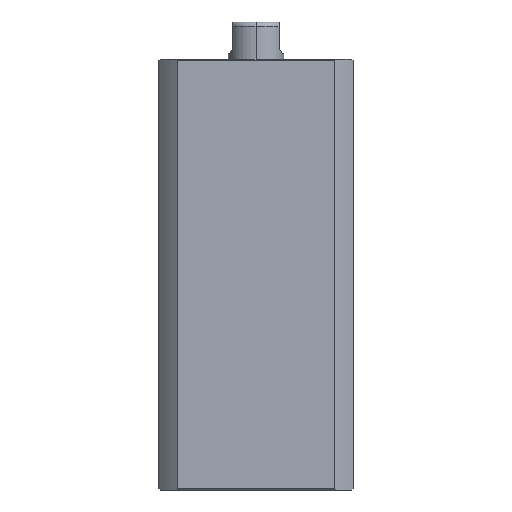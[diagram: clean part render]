
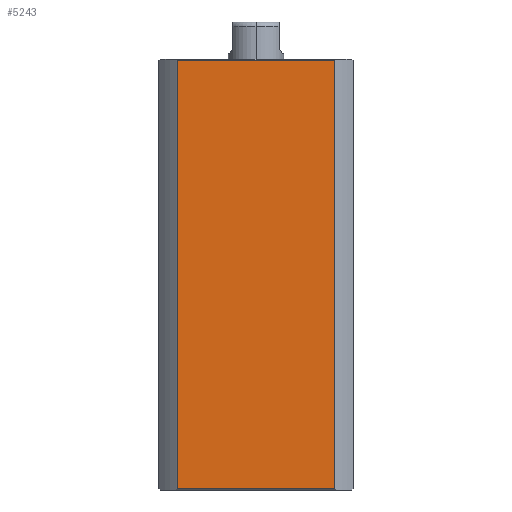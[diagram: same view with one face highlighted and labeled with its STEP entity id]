
A CAD part, left-side view. The second image highlights one B-rep face of the part: STEP entity #5243.
In plain terms, the highlighted planar face has unit normal (-1, 0, 0).
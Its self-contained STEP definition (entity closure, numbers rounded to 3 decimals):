
#770 = LINE ( 'NONE', #8432, #3007 ) ;
#1997 = CARTESIAN_POINT ( 'NONE',  ( -21., 16.971, -2907. ) ) ;
#2202 = VERTEX_POINT ( 'NONE', #12002 ) ;
#2405 = CARTESIAN_POINT ( 'NONE',  ( -21., -16.971, -2907. ) ) ;
#2586 = VERTEX_POINT ( 'NONE', #5443 ) ;
#2667 = VECTOR ( 'NONE', #3358, 1000. ) ;
#3007 = VECTOR ( 'NONE', #9371, 1000. ) ;
#3143 = EDGE_LOOP ( 'NONE', ( #5928, #4443, #11822, #9289 ) ) ;
#3237 = CARTESIAN_POINT ( 'NONE',  ( -21., 21., 92.7 ) ) ;
#3358 = DIRECTION ( 'NONE',  ( 0., 0., -1. ) ) ;
#3577 = VERTEX_POINT ( 'NONE', #9877 ) ;
#3650 = VECTOR ( 'NONE', #11380, 1000. ) ;
#3678 = FACE_OUTER_BOUND ( 'NONE', #3143, .T. ) ;
#3917 = EDGE_CURVE ( 'NONE', #3577, #2202, #7643, .T. ) ;
#4104 = LINE ( 'NONE', #3237, #6267 ) ;
#4264 = LINE ( 'NONE', #1997, #3650 ) ;
#4443 = ORIENTED_EDGE ( 'NONE', *, *, #11887, .T. ) ;
#4500 = DIRECTION ( 'NONE',  ( 1., 0., 0. ) ) ;
#5243 = ADVANCED_FACE ( 'NONE', ( #3678 ), #10099, .F. ) ;
#5443 = CARTESIAN_POINT ( 'NONE',  ( -21., 16.971, 92.7 ) ) ;
#5860 = CARTESIAN_POINT ( 'NONE',  ( -21., 16.971, 0.3 ) ) ;
#5928 = ORIENTED_EDGE ( 'NONE', *, *, #7096, .F. ) ;
#6200 = AXIS2_PLACEMENT_3D ( 'NONE', #11632, #4500, #11030 ) ;
#6267 = VECTOR ( 'NONE', #9809, 1000. ) ;
#7096 = EDGE_CURVE ( 'NONE', #9778, #2586, #4264, .T. ) ;
#7643 = LINE ( 'NONE', #2405, #2667 ) ;
#8432 = CARTESIAN_POINT ( 'NONE',  ( -21., 21., 0.3 ) ) ;
#8697 = EDGE_CURVE ( 'NONE', #3577, #2586, #4104, .T. ) ;
#9289 = ORIENTED_EDGE ( 'NONE', *, *, #8697, .T. ) ;
#9371 = DIRECTION ( 'NONE',  ( 0., -1., 0. ) ) ;
#9778 = VERTEX_POINT ( 'NONE', #5860 ) ;
#9809 = DIRECTION ( 'NONE',  ( 0., 1., 0. ) ) ;
#9877 = CARTESIAN_POINT ( 'NONE',  ( -21., -16.971, 92.7 ) ) ;
#10099 = PLANE ( 'NONE',  #6200 ) ;
#11030 = DIRECTION ( 'NONE',  ( 0., 1., 0. ) ) ;
#11380 = DIRECTION ( 'NONE',  ( 0., 0., 1. ) ) ;
#11632 = CARTESIAN_POINT ( 'NONE',  ( -21., 21., 93. ) ) ;
#11822 = ORIENTED_EDGE ( 'NONE', *, *, #3917, .F. ) ;
#11887 = EDGE_CURVE ( 'NONE', #9778, #2202, #770, .T. ) ;
#12002 = CARTESIAN_POINT ( 'NONE',  ( -21., -16.971, 0.3 ) ) ;
